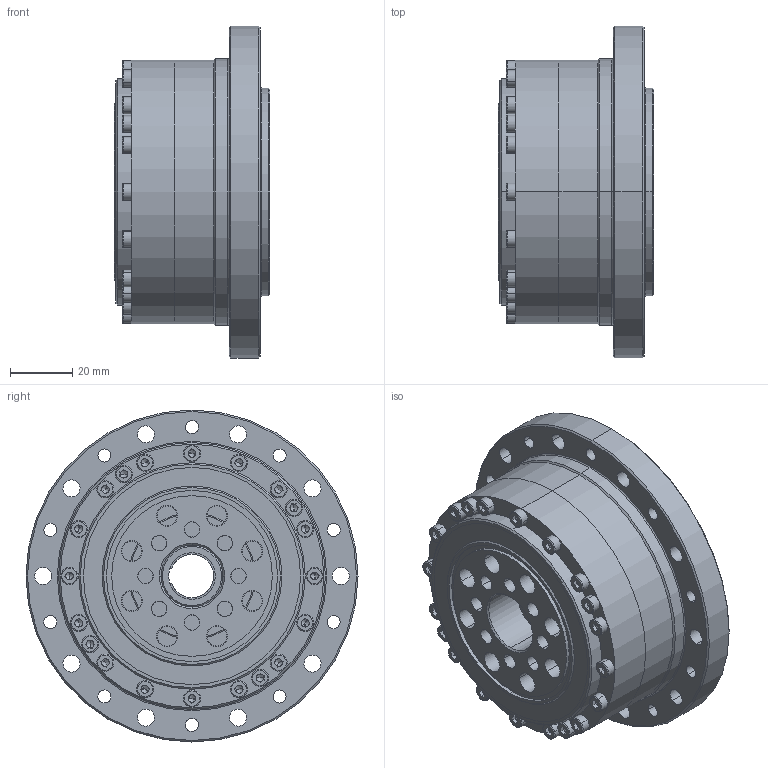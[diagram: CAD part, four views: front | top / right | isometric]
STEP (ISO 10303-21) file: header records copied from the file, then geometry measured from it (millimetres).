
FILE_DESCRIPTION (( 'STEP AP203' ), '1' );
FILE_NAME ('LCSG-25-XXX-C-I.STEP', '2016-08-18T02:09:59', ( 'Windows 蚚誧' ), ( 'Users' ), 'SwSTEP 2.0', 'SolidWorks 2013', '' );
FILE_SCHEMA (( 'CONFIG_CONTROL_DESIGN' ));
Length unit declared in the file: millimetre
Products named in the file (16): DB-25G-I; LCSG-25-XXX-P02-I; RZC-25G内外圈+钢球; LCSG-25-XXX-P04-I; RZC-25悵厥殤; LCSG-25-XXX-P05-I; 柔性轴承RZC-25G; YF-25G-I; countersunk flat head cross recess screw_din_ISO 7046-1 - M2.5 x 4 - Z --- 4C; socket head cap screw_din_DIN 912 M6 x 16 --- 16C; 疏楷汜ん-25G-I; socket head cap screw_din_DIN 912 M3 x 20 --- 20C; LCSG-25-XXX-C-I; socket head cap screw_din_DIN 912 M3 x 12 --- 12C; LCSG-25-XXX-P03-I; LCSG-25-XXX-P01-I
Assembly tree (43 placements, depth 4):
  LCSG-25-XXX-C-I
    LCSG-25-XXX-P01-I
    LCSG-25-XXX-P02-I
    LCSG-25-XXX-P04-I
    LCSG-25-XXX-P05-I
    YF-25G-I
    socket head cap screw_din_DIN 912 M6 x 16 --- 16C  x8
    socket head cap screw_din_DIN 912 M3 x 20 --- 20C  x16
    socket head cap screw_din_DIN 912 M3 x 12 --- 12C  x4
    疏楷汜ん-25G-I
      LCSG-25-XXX-P03-I
      DB-25G-I
      柔性轴承RZC-25G
        RZC-25G内外圈+钢球
        RZC-25悵厥殤
      countersunk flat head cross recess screw_din_ISO 7046-1 - M2.5 x 4 - Z --- 4C  x4
Bounding box: 50 x 107 x 107 mm (x, y, z)
Volume: 199337 mm3; surface area: 125922.5 mm2
Topology: 66 solids, 67 shells, 1606 faces, 3759 edges, 2254 vertices
Faces by surface type: plane 617, cylinder 523, cone 260, torus 160, sphere 46
Entity records: 26446 total; most frequent: DIRECTION 4737, CARTESIAN_POINT 4030, ORIENTED_EDGE 3744, AXIS2_PLACEMENT_3D 2025, EDGE_CURVE 1872, VERTEX_POINT 1198, CIRCLE 1169, EDGE_LOOP 1064
